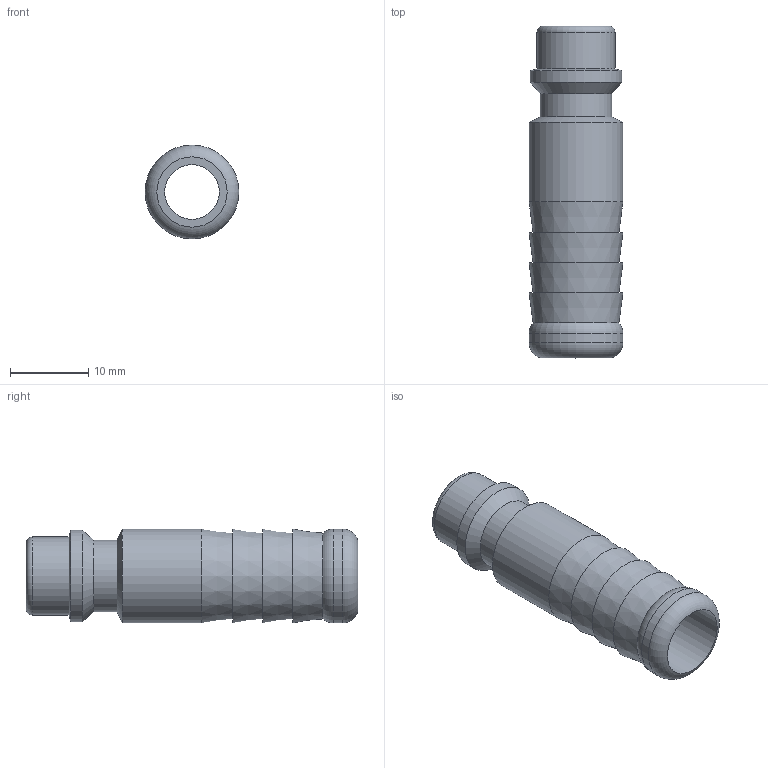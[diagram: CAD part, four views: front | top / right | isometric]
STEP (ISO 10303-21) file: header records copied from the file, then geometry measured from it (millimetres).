
FILE_DESCRIPTION(/* description */ (''),/* implementation_level */ '2;1');
FILE_NAME(/* name */ 'S:\_Tecnico\ArchivioUT\_Disegni3D ingombri\DISEGNI 3D per ingombri\GD\GD900012.stp',/* time_stamp */ '2020-11-19T14:28:02+01:00',/* author */ ('ufficiotecnico3'),/* organization */ (''),/* preprocessor_version */ 'ST-DEVELOPER v18',/* originating_system */ 'Autodesk Inventor 2020',/* authorisation */ '');
FILE_SCHEMA (('AUTOMOTIVE_DESIGN { 1 0 10303 214 3 1 1 }'));
Length unit declared in the file: millimetre
Products named in the file (1): GD900012
Bounding box: 12 x 42.5 x 12 mm (x, y, z)
Volume: 1927.4 mm3; surface area: 2807.6 mm2
Topology: 1 solids, 1 shells, 22 faces, 59 edges, 42 vertices
Faces by surface type: cylinder 7, cone 7, plane 5, torus 3
Full cylindrical faces by diameter (mm): 7 x1, 9 x1, 9.2 x1, 10 x1, 11.7 x1, 12 x2
Entity records: 777 total; most frequent: DIRECTION 150, CARTESIAN_POINT 124, ORIENTED_EDGE 118, AXIS2_PLACEMENT_3D 68, EDGE_CURVE 59, CIRCLE 45, VERTEX_POINT 42, EDGE_LOOP 27
